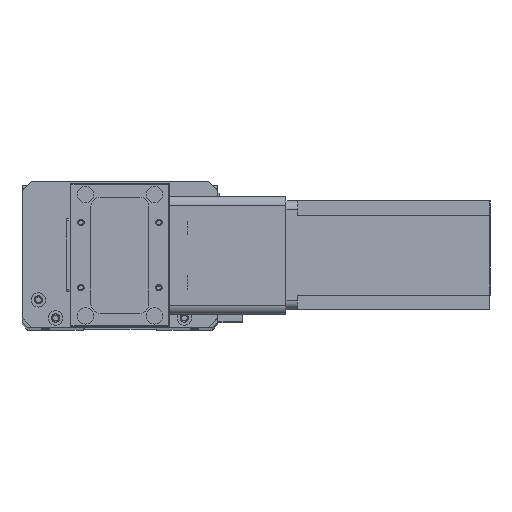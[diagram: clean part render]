
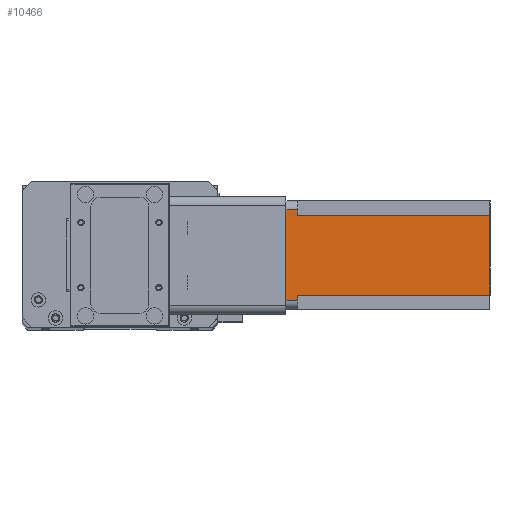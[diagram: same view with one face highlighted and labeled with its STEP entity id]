
A CAD part, top view. The second image highlights one B-rep face of the part: STEP entity #10466.
In plain terms, the highlighted planar face has unit normal (0, 0, 1) as drawn and (0, 1, 0) by its records, which use the part's own axes.
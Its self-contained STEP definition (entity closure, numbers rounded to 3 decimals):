
#128 = VERTEX_POINT ( 'NONE', #6898 ) ;
#789 = VECTOR ( 'NONE', #25936, 1000. ) ;
#1035 = DIRECTION ( 'NONE',  ( 1., 0., 0. ) ) ;
#1091 = VECTOR ( 'NONE', #7105, 1000. ) ;
#1793 = CARTESIAN_POINT ( 'NONE',  ( 0., 60., -112.5 ) ) ;
#2339 = CARTESIAN_POINT ( 'NONE',  ( 5., 60., -112.5 ) ) ;
#2416 = ORIENTED_EDGE ( 'NONE', *, *, #9411, .F. ) ;
#3041 = CARTESIAN_POINT ( 'NONE',  ( 52., 60., -6.5 ) ) ;
#3083 = DIRECTION ( 'NONE',  ( 0., 0., -1. ) ) ;
#3106 = EDGE_CURVE ( 'NONE', #128, #24473, #14079, .T. ) ;
#3172 = AXIS2_PLACEMENT_3D ( 'NONE', #1793, #21881, #15885 ) ;
#3495 = FACE_OUTER_BOUND ( 'NONE', #13944, .T. ) ;
#3740 = PLANE ( 'NONE',  #3172 ) ;
#3844 = CARTESIAN_POINT ( 'NONE',  ( 0., 60., 0. ) ) ;
#5035 = CARTESIAN_POINT ( 'NONE',  ( 8., 60., -112.5 ) ) ;
#5708 = CARTESIAN_POINT ( 'NONE',  ( 52., 60., -112.5 ) ) ;
#6045 = EDGE_CURVE ( 'NONE', #128, #12747, #14401, .T. ) ;
#6449 = LINE ( 'NONE', #15151, #1091 ) ;
#6898 = CARTESIAN_POINT ( 'NONE',  ( 55., 60., 0. ) ) ;
#7056 = EDGE_CURVE ( 'NONE', #15078, #11092, #6449, .T. ) ;
#7105 = DIRECTION ( 'NONE',  ( -1., 0., 0. ) ) ;
#7728 = DIRECTION ( 'NONE',  ( 0., 0., 1. ) ) ;
#7731 = CARTESIAN_POINT ( 'NONE',  ( 8., 60., -112.5 ) ) ;
#8398 = VECTOR ( 'NONE', #9873, 1000. ) ;
#8717 = VECTOR ( 'NONE', #3083, 1000. ) ;
#9411 = EDGE_CURVE ( 'NONE', #13021, #11092, #16148, .T. ) ;
#9873 = DIRECTION ( 'NONE',  ( -1., 0., 0. ) ) ;
#10466 = ADVANCED_FACE ( 'NONE', ( #3495 ), #3740, .T. ) ;
#11092 = VERTEX_POINT ( 'NONE', #7731 ) ;
#11350 = LINE ( 'NONE', #25188, #21493 ) ;
#11805 = LINE ( 'NONE', #5708, #14668 ) ;
#12017 = VECTOR ( 'NONE', #19138, 1000. ) ;
#12166 = ORIENTED_EDGE ( 'NONE', *, *, #7056, .T. ) ;
#12452 = ORIENTED_EDGE ( 'NONE', *, *, #25482, .F. ) ;
#12523 = VECTOR ( 'NONE', #20522, 1000. ) ;
#12747 = VERTEX_POINT ( 'NONE', #17772 ) ;
#12948 = ORIENTED_EDGE ( 'NONE', *, *, #21185, .F. ) ;
#13010 = VERTEX_POINT ( 'NONE', #21655 ) ;
#13021 = VERTEX_POINT ( 'NONE', #20784 ) ;
#13944 = EDGE_LOOP ( 'NONE', ( #25312, #16158, #12948, #12452, #12166, #2416, #22161, #20056 ) ) ;
#14079 = LINE ( 'NONE', #15154, #8717 ) ;
#14401 = LINE ( 'NONE', #3844, #8398 ) ;
#14485 = CARTESIAN_POINT ( 'NONE',  ( 55., 60., -6.5 ) ) ;
#14668 = VECTOR ( 'NONE', #7728, 1000. ) ;
#15078 = VERTEX_POINT ( 'NONE', #18931 ) ;
#15151 = CARTESIAN_POINT ( 'NONE',  ( 0., 60., -112.5 ) ) ;
#15154 = CARTESIAN_POINT ( 'NONE',  ( 55., 60., -112.5 ) ) ;
#15885 = DIRECTION ( 'NONE',  ( 0., 0., 1. ) ) ;
#15897 = CARTESIAN_POINT ( 'NONE',  ( 8., 60., -6.5 ) ) ;
#16148 = LINE ( 'NONE', #5035, #12017 ) ;
#16158 = ORIENTED_EDGE ( 'NONE', *, *, #3106, .T. ) ;
#17772 = CARTESIAN_POINT ( 'NONE',  ( 5., 60., 0. ) ) ;
#17900 = LINE ( 'NONE', #2339, #12523 ) ;
#18931 = CARTESIAN_POINT ( 'NONE',  ( 52., 60., -112.5 ) ) ;
#19138 = DIRECTION ( 'NONE',  ( 0., 0., -1. ) ) ;
#19690 = VERTEX_POINT ( 'NONE', #3041 ) ;
#19910 = EDGE_CURVE ( 'NONE', #13021, #13010, #22245, .T. ) ;
#20056 = ORIENTED_EDGE ( 'NONE', *, *, #23621, .T. ) ;
#20522 = DIRECTION ( 'NONE',  ( 0., 0., 1. ) ) ;
#20784 = CARTESIAN_POINT ( 'NONE',  ( 8., 60., -6.5 ) ) ;
#21185 = EDGE_CURVE ( 'NONE', #19690, #24473, #11350, .T. ) ;
#21493 = VECTOR ( 'NONE', #1035, 1000. ) ;
#21655 = CARTESIAN_POINT ( 'NONE',  ( 5., 60., -6.5 ) ) ;
#21881 = DIRECTION ( 'NONE',  ( 0., 1., 0. ) ) ;
#22161 = ORIENTED_EDGE ( 'NONE', *, *, #19910, .T. ) ;
#22245 = LINE ( 'NONE', #15897, #789 ) ;
#23621 = EDGE_CURVE ( 'NONE', #13010, #12747, #17900, .T. ) ;
#24473 = VERTEX_POINT ( 'NONE', #14485 ) ;
#25188 = CARTESIAN_POINT ( 'NONE',  ( 52., 60., -6.5 ) ) ;
#25312 = ORIENTED_EDGE ( 'NONE', *, *, #6045, .F. ) ;
#25482 = EDGE_CURVE ( 'NONE', #15078, #19690, #11805, .T. ) ;
#25936 = DIRECTION ( 'NONE',  ( -1., 0., 0. ) ) ;
